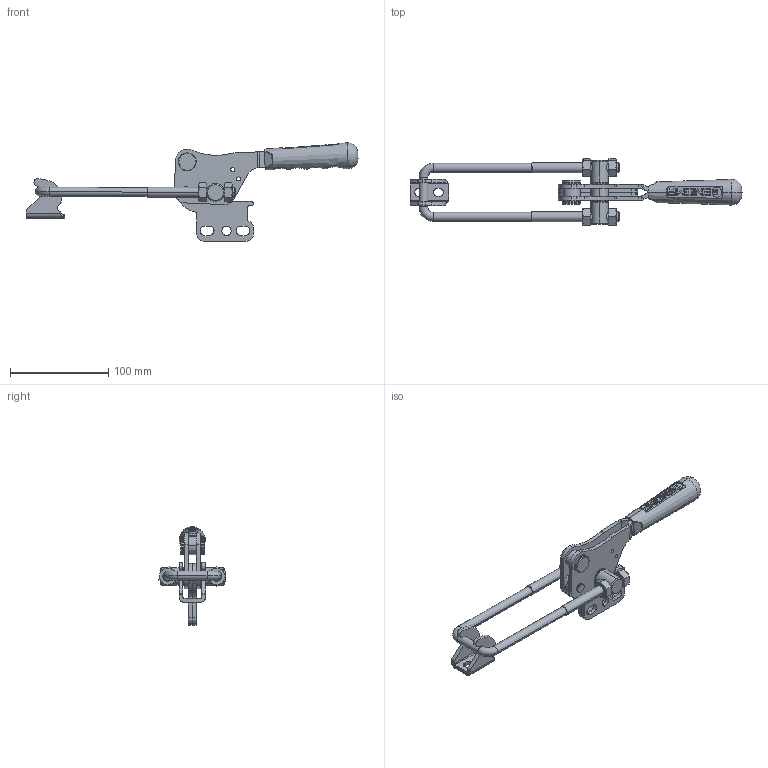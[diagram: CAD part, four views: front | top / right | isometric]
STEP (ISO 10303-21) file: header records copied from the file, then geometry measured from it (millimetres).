
FILE_DESCRIPTION (( 'STEP AP203' ), '1' );
FILE_NAME ('13110_D.STEP', '2022-11-30T12:47:35', ( '' ), ( '' ), 'SwSTEP 2.0', 'SolidWorks 2023', '' );
FILE_SCHEMA (( 'CONFIG_CONTROL_DESIGN' ));
Length unit declared in the file: millimetre
Products named in the file (12): M10_S(SOMUN)_Varsay_X2_0131_X0_lan_1; M8-M10_REV1_DefaultSM-FLAT-PATTERN_1; 13110_OTOMAT_Varsay_X2_0131_X0_lan_1; M10x90_U_KANCA_Varsay_X2_0131_X0_lan_1; C95_Yeni_Tutamak_Varsay_X2_0131_X0_lan_1; 2022_13108_13110_Y_G_X2_00d6_X0_VDE_1; 6x21_PER_X2_00c70130_X0_N_Varsay_X2_0131_X0_lan_1; Mirror13110_H.KOLU_2022_Varsay_X2_0131_X0_lan_1; 13110_D; Mirror2022_13108_13110_Y_G_X2_00d6_X0_VDE_1; 13110_OTOMAT_2_Varsay_X2_0131_X0_lan_1; 13110_H.KOLU_2022_Varsay_X2_0131_X0_lan_1
Assembly tree (14 placements, depth 2):
  13110_D
    2022_13108_13110_Y_G_X2_00d6_X0_VDE_1
    13110_H.KOLU_2022_Varsay_X2_0131_X0_lan_1
    13110_OTOMAT_Varsay_X2_0131_X0_lan_1
    13110_OTOMAT_2_Varsay_X2_0131_X0_lan_1
    Mirror2022_13108_13110_Y_G_X2_00d6_X0_VDE_1
    Mirror13110_H.KOLU_2022_Varsay_X2_0131_X0_lan_1
    M10x90_U_KANCA_Varsay_X2_0131_X0_lan_1
    M8-M10_REV1_DefaultSM-FLAT-PATTERN_1
    C95_Yeni_Tutamak_Varsay_X2_0131_X0_lan_1
    6x21_PER_X2_00c70130_X0_N_Varsay_X2_0131_X0_lan_1
    M10_S(SOMUN)_Varsay_X2_0131_X0_lan_1  x4
Bounding box: 338.48 x 67.41 x 100.35 mm (x, y, z)
Volume: 155116.8 mm3; surface area: 78579.8 mm2
Topology: 14 solids, 14 shells, 607 faces, 1569 edges, 1013 vertices
Faces by surface type: plane 280, cylinder 193, cone 82, bspline 28, torus 22, sphere 2
Entity records: 30644 total; most frequent: CARTESIAN_POINT 16304, ORIENTED_EDGE 2718, DIRECTION 2690, EDGE_CURVE 1359, AXIS2_PLACEMENT_3D 946, VERTEX_POINT 878, LINE 798, VECTOR 798
